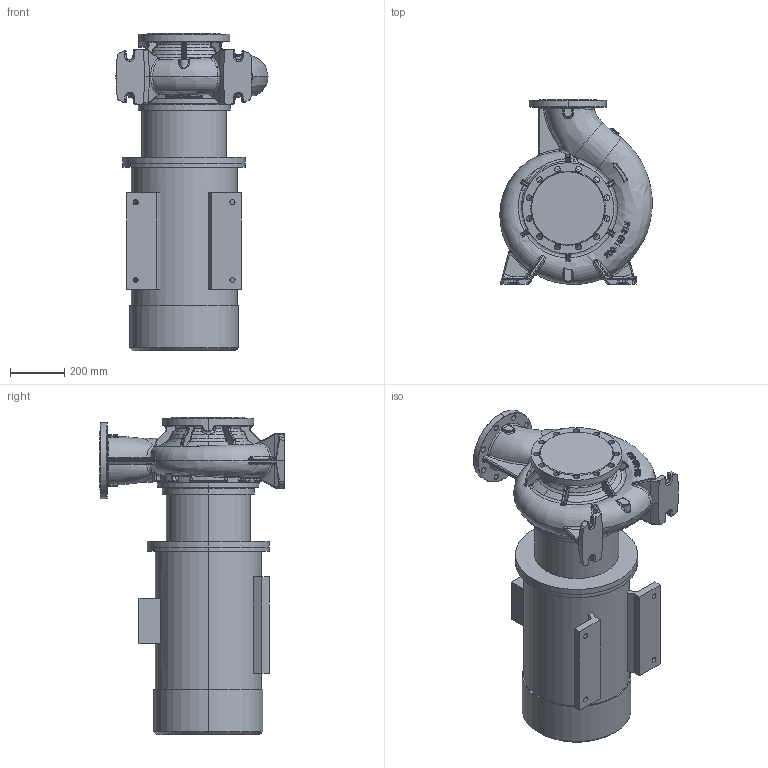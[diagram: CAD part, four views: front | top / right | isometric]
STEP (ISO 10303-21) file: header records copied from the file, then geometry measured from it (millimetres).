
FILE_DESCRIPTION (( 'STEP AP214' ), '1' );
FILE_NAME ('KRM 200-150-315-4-37.STEP', '2026-04-17T11:54:51', ( '' ), ( '' ), 'SwSTEP 2.0', 'SolidWorks 2016', '' );
FILE_SCHEMA (( 'AUTOMOTIVE_DESIGN' ));
Length unit declared in the file: millimetre
Products named in the file (1): KRM 200-150-315-4-37
Bounding box: 559.93 x 680 x 1167.3 mm (x, y, z)
Volume: 153377683.6 mm3; surface area: 3555673.7 mm2
Topology: 16 solids, 16 shells, 1427 faces, 3464 edges, 2032 vertices
Faces by surface type: bspline 605, cylinder 320, plane 258, torus 124, cone 76, sphere 44
Entity records: 99579 total; most frequent: CARTESIAN_POINT 55063, ORIENTED_EDGE 6822, DIRECTION 4885, EDGE_CURVE 3411, VERTEX_POINT 2032, AXIS2_PLACEMENT_3D 2019, EDGE_LOOP 1499, UNCERTAINTY_MEASURE_WITH_UNIT 1445
